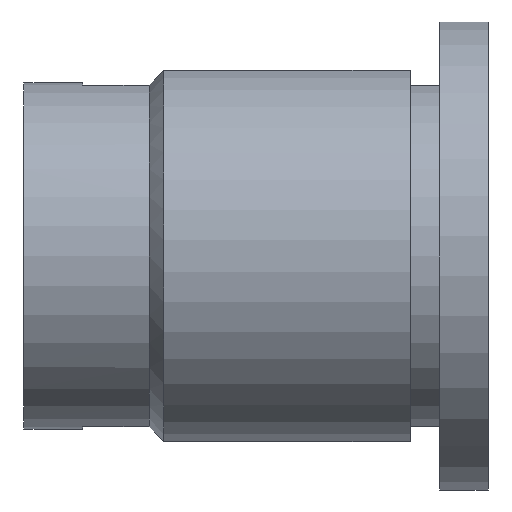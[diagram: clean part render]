
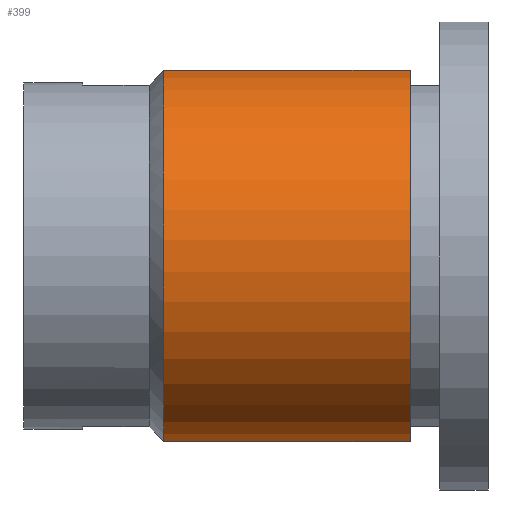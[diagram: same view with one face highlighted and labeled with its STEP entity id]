
A CAD part, front view. The second image highlights one B-rep face of the part: STEP entity #399.
In plain terms, the highlighted cylindrical face has radius 2.55 mm (diameter 5.1 mm), a partial arc.
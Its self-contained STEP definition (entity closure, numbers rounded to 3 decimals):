
#22 = CYLINDRICAL_SURFACE ( 'NONE', #542, 2.55 ) ;
#26 = ORIENTED_EDGE ( 'NONE', *, *, #35, .F. ) ;
#35 = EDGE_CURVE ( 'NONE', #820, #872, #827, .T. ) ;
#63 = DIRECTION ( 'NONE',  ( 0., 0., 1. ) ) ;
#99 = DIRECTION ( 'NONE',  ( 1., 0., 0. ) ) ;
#186 = ORIENTED_EDGE ( 'NONE', *, *, #625, .F. ) ;
#192 = CARTESIAN_POINT ( 'NONE',  ( -4.4, 0., 0. ) ) ;
#207 = AXIS2_PLACEMENT_3D ( 'NONE', #766, #682, #63 ) ;
#226 = ORIENTED_EDGE ( 'NONE', *, *, #373, .T. ) ;
#257 = DIRECTION ( 'NONE',  ( 0., 0., -1. ) ) ;
#338 = DIRECTION ( 'NONE',  ( 1., 0., 0. ) ) ;
#368 = VERTEX_POINT ( 'NONE', #509 ) ;
#373 = EDGE_CURVE ( 'NONE', #820, #807, #458, .T. ) ;
#386 = DIRECTION ( 'NONE',  ( -1., 0., 0. ) ) ;
#399 = ADVANCED_FACE ( 'NONE', ( #587 ), #22, .T. ) ;
#407 = AXIS2_PLACEMENT_3D ( 'NONE', #192, #738, #257 ) ;
#458 = CIRCLE ( 'NONE', #407, 2.55 ) ;
#490 = CARTESIAN_POINT ( 'NONE',  ( -4.4, -0.4, 2.518 ) ) ;
#497 = CARTESIAN_POINT ( 'NONE',  ( 11.788, 0., 0. ) ) ;
#499 = ORIENTED_EDGE ( 'NONE', *, *, #768, .F. ) ;
#505 = DIRECTION ( 'NONE',  ( 0., 0., -1. ) ) ;
#509 = CARTESIAN_POINT ( 'NONE',  ( -1.06, -0.4, -2.518 ) ) ;
#542 = AXIS2_PLACEMENT_3D ( 'NONE', #497, #338, #505 ) ;
#587 = FACE_OUTER_BOUND ( 'NONE', #785, .T. ) ;
#625 = EDGE_CURVE ( 'NONE', #872, #368, #628, .T. ) ;
#628 = CIRCLE ( 'NONE', #207, 2.55 ) ;
#647 = CARTESIAN_POINT ( 'NONE',  ( -1.06, -0.4, 2.518 ) ) ;
#654 = VECTOR ( 'NONE', #386, 1000. ) ;
#682 = DIRECTION ( 'NONE',  ( 1., 0., 0. ) ) ;
#735 = CARTESIAN_POINT ( 'NONE',  ( -4.4, -0.4, -2.518 ) ) ;
#738 = DIRECTION ( 'NONE',  ( 1., 0., 0. ) ) ;
#766 = CARTESIAN_POINT ( 'NONE',  ( -1.06, 0., 0. ) ) ;
#768 = EDGE_CURVE ( 'NONE', #368, #807, #805, .T. ) ;
#783 = CARTESIAN_POINT ( 'NONE',  ( 11.788, -0.4, -2.518 ) ) ;
#785 = EDGE_LOOP ( 'NONE', ( #499, #186, #26, #226 ) ) ;
#805 = LINE ( 'NONE', #783, #654 ) ;
#807 = VERTEX_POINT ( 'NONE', #735 ) ;
#820 = VERTEX_POINT ( 'NONE', #490 ) ;
#824 = VECTOR ( 'NONE', #99, 1000. ) ;
#827 = LINE ( 'NONE', #1004, #824 ) ;
#872 = VERTEX_POINT ( 'NONE', #647 ) ;
#1004 = CARTESIAN_POINT ( 'NONE',  ( 11.788, -0.4, 2.518 ) ) ;
